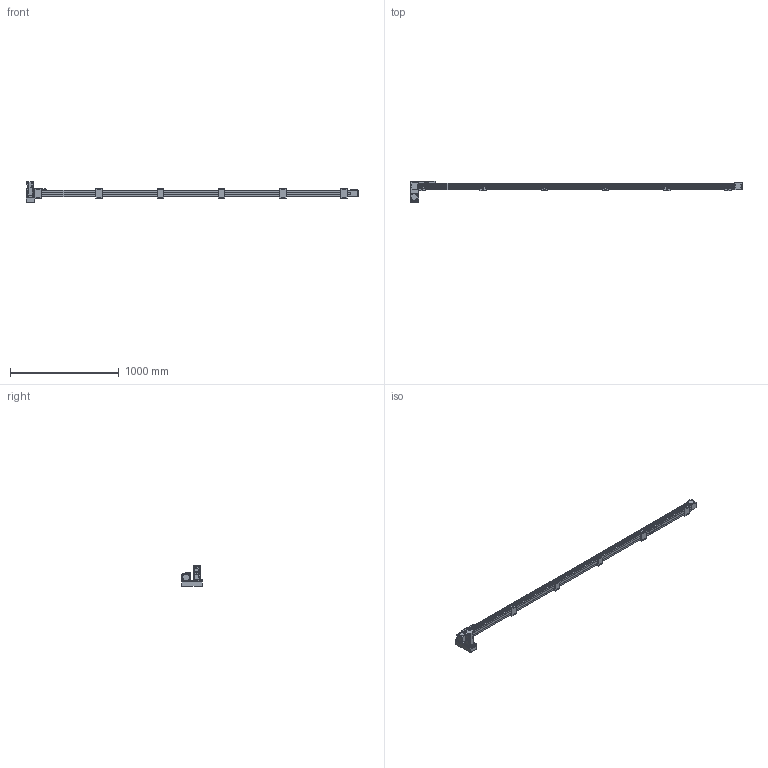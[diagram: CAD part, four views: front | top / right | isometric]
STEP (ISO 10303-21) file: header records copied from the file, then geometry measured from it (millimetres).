
FILE_DESCRIPTION(/* description */ ('STEP AP214'),/* implementation_level */ '2;1');
FILE_NAME(/* name */ 'SK60-P13-S2750-LD-T40-C1-N(0)',/* time_stamp */ '2023-04-06T04:40:10+02:00',/* author */ ('License CC BY-ND 4.0'),/* organization */ ('CADENAS'),/* preprocessor_version */ 'ST-DEVELOPER v19.3',/* originating_system */ 'PARTsolutions',/* authorisation */ ' ');
FILE_SCHEMA (('AUTOMOTIVE_DESIGN {1 0 10303 214 3 1 1}'));
Length unit declared in the file: millimetre
Products named in the file (10): SK60-P13-S2750-LD-T40-C1-N(0); PSC140-sensor; SK60-S450_seat; SK60-S450-BL-C1_slider; SK60_body3; SK60_body6; SK60-BL_body2; T40-p1; SK60-LD_fb; SK60-S2750-LD-C1_body
Assembly tree (20 placements, depth 2):
  SK60-P13-S2750-LD-T40-C1-N(0)
    PSC140-sensor  x3
    SK60-S450_seat  x6
    SK60-S450-BL-C1_slider
    SK60_body3  x3
    SK60_body6  x2
    SK60-BL_body2  x2
    T40-p1
    SK60-LD_fb
    SK60-S2750-LD-C1_body
Bounding box: 3055.5 x 199 x 189.7 mm (x, y, z)
Volume: 11578531.7 mm3; surface area: 1360328.7 mm2
Topology: 20 solids, 20 shells, 986 faces, 2440 edges, 1605 vertices
Faces by surface type: plane 620, cylinder 326, cone 38, torus 2
Full cylindrical faces by diameter (mm): 2.8 x3, 3.3 x4, 4 x2, 4.5 x30, 4.6 x3, 4.917 x32, 5 x6, 5.478 x4, 5.5 x35, 6.5 x12, 7 x2, 8 x4, 8.5 x4, 9.988 x4, 10 x24, 14 x1, 47 x3, 50 x2
Entity records: 18687 total; most frequent: DIRECTION 3192, CARTESIAN_POINT 3154, ORIENTED_EDGE 2940, EDGE_CURVE 1470, AXIS2_PLACEMENT_3D 1072, LINE 1048, VECTOR 1048, VERTEX_POINT 1034
